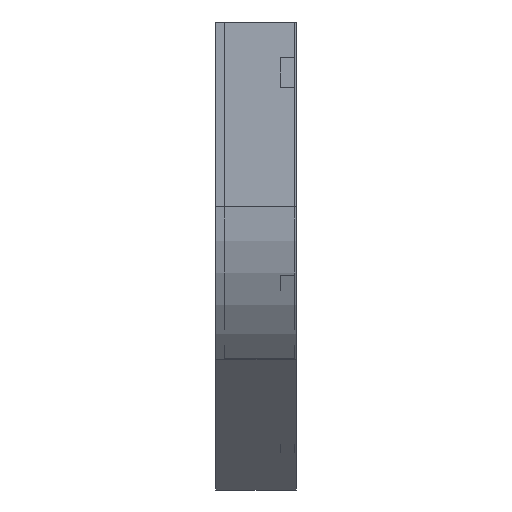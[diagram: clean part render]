
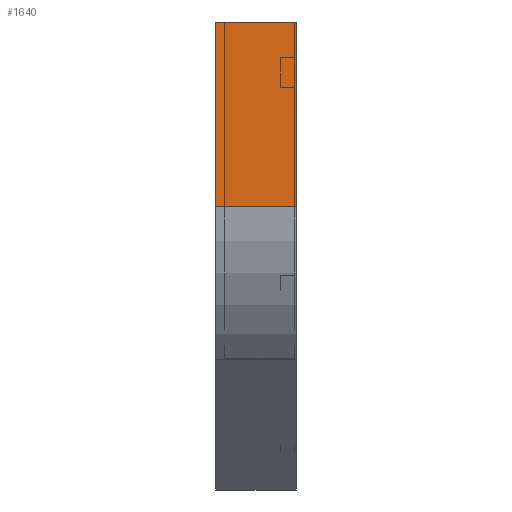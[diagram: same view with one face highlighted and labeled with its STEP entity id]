
A CAD part, left-side view. The second image highlights one B-rep face of the part: STEP entity #1640.
In plain terms, the highlighted planar face has unit normal (-1, 0, 0).
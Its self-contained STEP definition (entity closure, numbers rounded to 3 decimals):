
#2 = VERTEX_POINT ( 'NONE', #315 ) ;
#61 = EDGE_CURVE ( 'NONE', #2, #1019, #1589, .T. ) ;
#72 = LINE ( 'NONE', #1337, #1190 ) ;
#95 = DIRECTION ( 'NONE',  ( 0., -1., 0. ) ) ;
#117 = EDGE_CURVE ( 'NONE', #2, #1832, #1488, .T. ) ;
#123 = VECTOR ( 'NONE', #95, 1000. ) ;
#146 = CARTESIAN_POINT ( 'NONE',  ( 0., 0., -257.107 ) ) ;
#310 = AXIS2_PLACEMENT_3D ( 'NONE', #474, #1334, #467 ) ;
#315 = CARTESIAN_POINT ( 'NONE',  ( 0., 112.5, 0. ) ) ;
#412 = ORIENTED_EDGE ( 'NONE', *, *, #117, .F. ) ;
#422 = ORIENTED_EDGE ( 'NONE', *, *, #910, .F. ) ;
#467 = DIRECTION ( 'NONE',  ( 0., 0., -1. ) ) ;
#474 = CARTESIAN_POINT ( 'NONE',  ( 0., 0., 0. ) ) ;
#534 = VERTEX_POINT ( 'NONE', #146 ) ;
#698 = FACE_OUTER_BOUND ( 'NONE', #1221, .T. ) ;
#749 = CARTESIAN_POINT ( 'NONE',  ( 0., 112.5, 0. ) ) ;
#802 = VECTOR ( 'NONE', #1082, 1000. ) ;
#910 = EDGE_CURVE ( 'NONE', #1832, #534, #72, .T. ) ;
#949 = LINE ( 'NONE', #1513, #123 ) ;
#1004 = ORIENTED_EDGE ( 'NONE', *, *, #61, .T. ) ;
#1019 = VERTEX_POINT ( 'NONE', #1729 ) ;
#1082 = DIRECTION ( 'NONE',  ( 0., -1., 0. ) ) ;
#1103 = CARTESIAN_POINT ( 'NONE',  ( 0., 0., 0. ) ) ;
#1190 = VECTOR ( 'NONE', #1750, 1000. ) ;
#1221 = EDGE_LOOP ( 'NONE', ( #422, #412, #1004, #1461 ) ) ;
#1258 = PLANE ( 'NONE',  #310 ) ;
#1306 = VECTOR ( 'NONE', #1318, 1000. ) ;
#1318 = DIRECTION ( 'NONE',  ( 0., 0., -1. ) ) ;
#1334 = DIRECTION ( 'NONE',  ( 1., 0., 0. ) ) ;
#1337 = CARTESIAN_POINT ( 'NONE',  ( 0., 0., 0. ) ) ;
#1461 = ORIENTED_EDGE ( 'NONE', *, *, #1814, .T. ) ;
#1488 = LINE ( 'NONE', #1641, #802 ) ;
#1513 = CARTESIAN_POINT ( 'NONE',  ( 0., 0., -257.107 ) ) ;
#1589 = LINE ( 'NONE', #749, #1306 ) ;
#1640 = ADVANCED_FACE ( 'NONE', ( #698 ), #1258, .F. ) ;
#1641 = CARTESIAN_POINT ( 'NONE',  ( 0., 0., 0. ) ) ;
#1729 = CARTESIAN_POINT ( 'NONE',  ( 0., 112.5, -257.107 ) ) ;
#1750 = DIRECTION ( 'NONE',  ( 0., 0., -1. ) ) ;
#1814 = EDGE_CURVE ( 'NONE', #1019, #534, #949, .T. ) ;
#1832 = VERTEX_POINT ( 'NONE', #1103 ) ;
